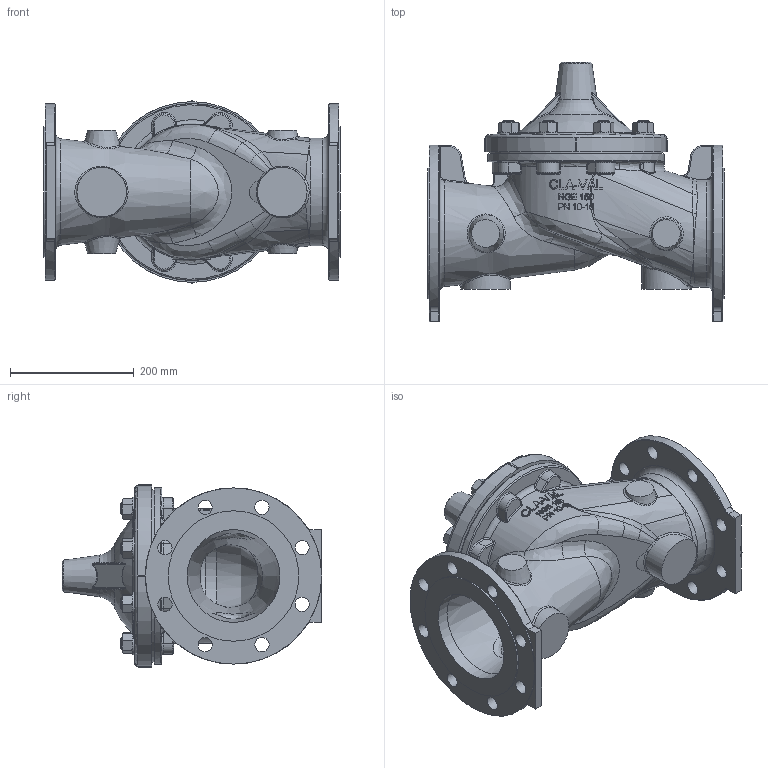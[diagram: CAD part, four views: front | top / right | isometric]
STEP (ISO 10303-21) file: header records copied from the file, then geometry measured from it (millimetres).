
FILE_DESCRIPTION(/* description */ (''),/* implementation_level */ '2;1');
FILE_NAME(/* name */ 'G:\Doc_Liberes\SymbolesCAD\Modeles_3D\FichierSTP\VanneDeBase\NGE150-16RF.stp',/* time_stamp */ '2023-08-17T11:02:02+02:00',/* author */ ('marc'),/* organization */ (''),/* preprocessor_version */ 'ST-DEVELOPER v18.1',/* originating_system */ 'Autodesk Inventor 2022',/* authorisation */ '');
FILE_SCHEMA (('AUTOMOTIVE_DESIGN { 1 0 10303 214 3 1 1 }'));
Products named in the file (1): NGE150_Simplifier_1
Bounding box: 480 x 419.28 x 295 mm (x, y, z)
Volume: 7993940 mm3; surface area: 1068176.3 mm2
Topology: 1 solids, 1 shells, 1515 faces, 3939 edges, 2482 vertices
Faces by surface type: plane 606, bspline 404, cone 245, cylinder 176, torus 82, sphere 2
Full cylindrical faces by diameter (mm): 19.05 x16, 22 x1, 23 x16, 37.313 x8, 50.8 x1, 80 x2, 130 x1, 133.6 x2, 150 x2, 211 x2, 279.1 x1, 285 x2, 286 x1
Entity records: 61962 total; most frequent: CARTESIAN_POINT 27831, ORIENTED_EDGE 7840, DIRECTION 6098, EDGE_CURVE 3920, VERTEX_POINT 2482, AXIS2_PLACEMENT_3D 2389, EDGE_LOOP 1640, FACE_OUTER_BOUND 1515
